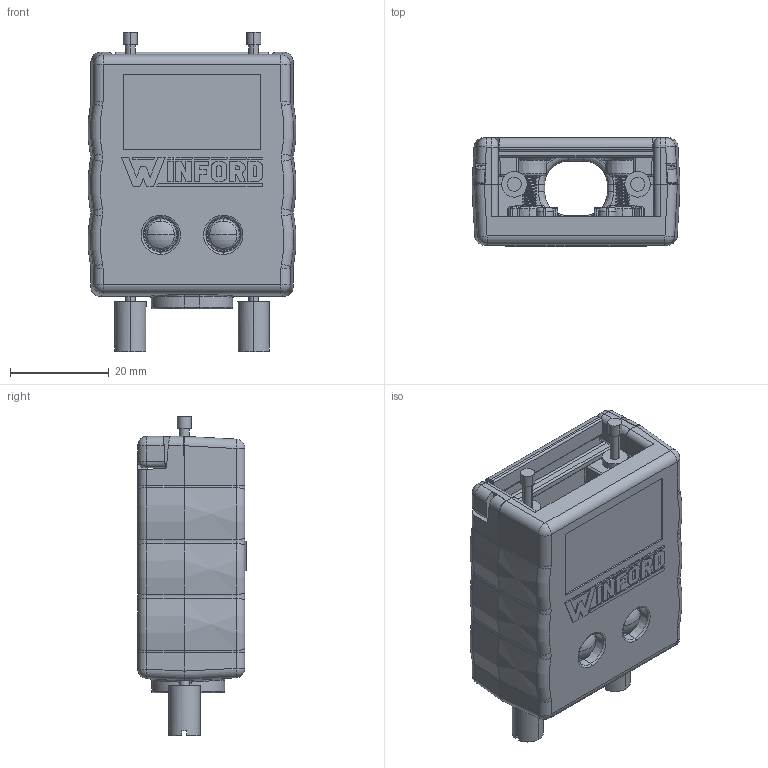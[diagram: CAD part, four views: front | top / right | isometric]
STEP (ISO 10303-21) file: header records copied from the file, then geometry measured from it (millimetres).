
FILE_DESCRIPTION (( 'STEP AP214' ), '1' );
FILE_NAME ('ecb9a2-t_rev_a.step', '2021-12-17T20:00:25', ( '' ), ( '' ), 'SwSTEP 2.0', 'SolidWorks 2018', '' );
FILE_SCHEMA (( 'AUTOMOTIVE_DESIGN' ));
Length unit declared in the file: inch
Products named in the file (7): 3.5 x 5 Nylon 6 Snap Rivet; thumbscrew; Enclosure #4-40 Insert_92395A112; ECB9A2 Base; Enclosure_Screw Ph 4-40 x .625_90272A112; ecb9a2-t_rev_a; ECB9A2 Cover
Assembly tree (10 placements, depth 2):
  ecb9a2-t_rev_a
    ECB9A2 Base
    ECB9A2 Cover
    3.5 x 5 Nylon 6 Snap Rivet  x2
    Enclosure #4-40 Insert_92395A112  x2
    Enclosure_Screw Ph 4-40 x .625_90272A112  x2
    thumbscrew  x2
Bounding box: 42.19 x 22 x 64.77 mm (x, y, z)
Volume: 15144.3 mm3; surface area: 17882.3 mm2
Topology: 16 solids, 16 shells, 3844 faces, 8882 edges, 5009 vertices
Faces by surface type: bspline 1935, cylinder 1056, plane 491, torus 144, sphere 120, cone 98
Entity records: 122637 total; most frequent: CARTESIAN_POINT 76238, ORIENTED_EDGE 11914, DIRECTION 6947, EDGE_CURVE 5957, VERTEX_POINT 3434, AXIS2_PLACEMENT_3D 2697, EDGE_LOOP 2639, FACE_OUTER_BOUND 2588
